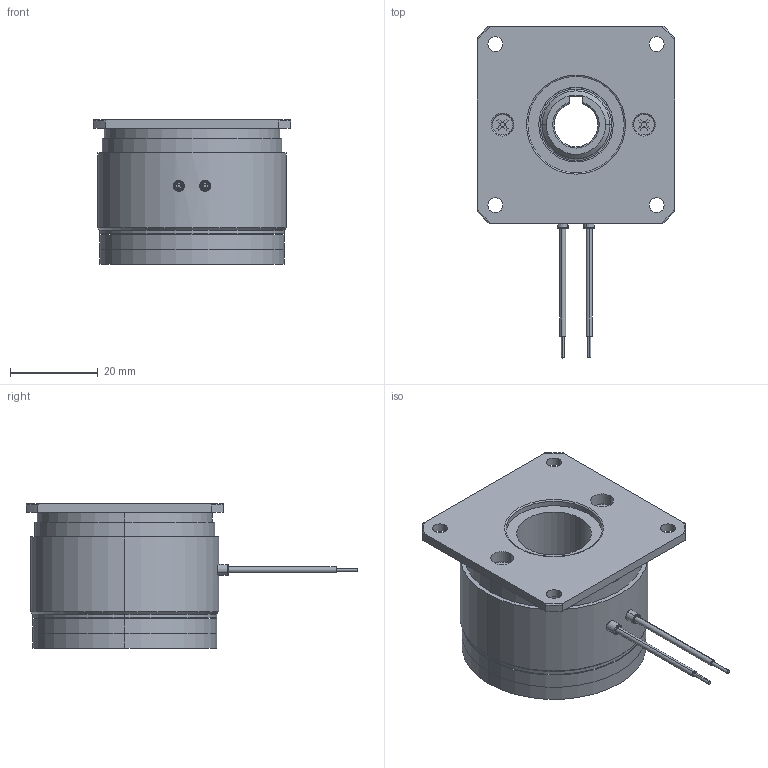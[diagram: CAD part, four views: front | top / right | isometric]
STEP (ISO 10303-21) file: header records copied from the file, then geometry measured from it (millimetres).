
FILE_DESCRIPTION (( 'STEP AP214' ), '1' );
FILE_NAME ('04P1220.STEP', '2026-04-23T06:17:27', ( '' ), ( '' ), 'SwSTEP 2.0', 'SolidWorks 2025', '' );
FILE_SCHEMA (( 'AUTOMOTIVE_DESIGN' ));
Length unit declared in the file: millimetre
Products named in the file (10): 10088630swp000; 10088627swa000; 10088626swp000_Einbaulänge 2,15mm; 10088626swp000_genietet (2,35mm Klemmlänge); 10088623swp000; 10088631swa000; 04P1220; 10088625swp000; 10088628swp000; 10088629swp000
Assembly tree (18 placements, depth 4):
  04P1220
    10088623swp000
    10088631swa000
      10088630swp000
      10088627swa000
        10088628swp000
        10088625swp000
        10088626swp000_genietet (2,35mm Klemmlänge)  x3
        10088629swp000  x3
      10088626swp000_Einbaulänge 2,15mm  x3
      10088629swp000  x3
Bounding box: 45 x 75.7 x 33 mm (x, y, z)
Volume: 40076.3 mm3; surface area: 18981.7 mm2
Topology: 18 solids, 18 shells, 388 faces, 888 edges, 546 vertices
Faces by surface type: cylinder 165, cone 94, plane 75, torus 42, sphere 12
Entity records: 8575 total; most frequent: DIRECTION 1562, CARTESIAN_POINT 1551, ORIENTED_EDGE 1280, AXIS2_PLACEMENT_3D 645, EDGE_CURVE 640, VERTEX_POINT 402, CIRCLE 348, EDGE_LOOP 346
